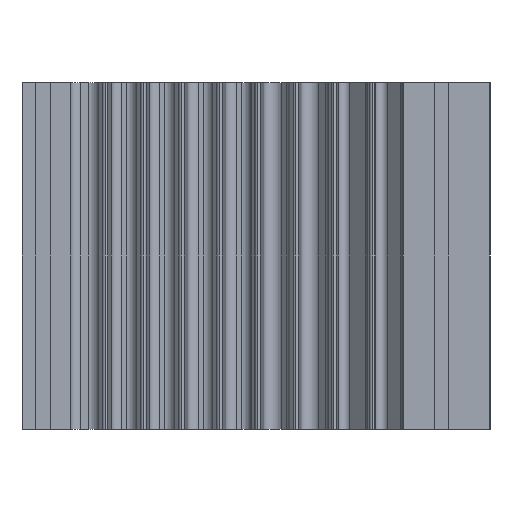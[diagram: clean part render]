
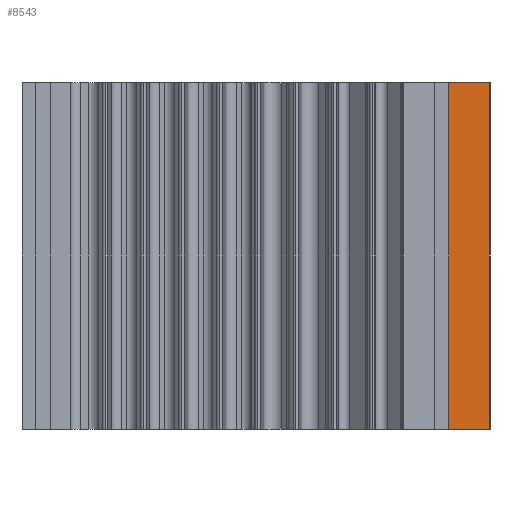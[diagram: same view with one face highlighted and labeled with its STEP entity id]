
A CAD part, left-side view. The second image highlights one B-rep face of the part: STEP entity #8543.
In plain terms, the highlighted planar face has unit normal (-1, 0, 0).
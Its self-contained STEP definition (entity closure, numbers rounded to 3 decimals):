
#1002 = PLANE ( 'NONE',  #7628 ) ;
#1003 = CARTESIAN_POINT ( 'NONE',  ( -62.5, -135., 100. ) ) ;
#1004 = DIRECTION ( 'NONE',  ( 1., 0., 0. ) ) ;
#1005 = DIRECTION ( 'NONE',  ( 0., 0., -1. ) ) ;
#2646 = CARTESIAN_POINT ( 'NONE',  ( -62.5, -123.15, 100. ) ) ;
#2647 = DIRECTION ( 'NONE',  ( 0., 0., -1. ) ) ;
#2653 = CARTESIAN_POINT ( 'NONE',  ( -62.5, -135., 100. ) ) ;
#2654 = DIRECTION ( 'NONE',  ( 0., 0., -1. ) ) ;
#4562 = CARTESIAN_POINT ( 'NONE',  ( -62.5, -123.15, 100. ) ) ;
#4652 = CARTESIAN_POINT ( 'NONE',  ( -62.5, -135., 100. ) ) ;
#4754 = EDGE_CURVE ( 'NONE', #6352, #6360, #5773, .T. ) ;
#5773 = LINE ( 'NONE', #10401, #11525 ) ;
#6045 = EDGE_LOOP ( 'NONE', ( #13662, #13660, #13665, #13656 ) ) ;
#6352 = VERTEX_POINT ( 'NONE', #10642 ) ;
#6360 = VERTEX_POINT ( 'NONE', #10650 ) ;
#7348 = VECTOR ( 'NONE', #10098, 1000. ) ;
#7628 = AXIS2_PLACEMENT_3D ( 'NONE', #1003, #1004, #1005 ) ;
#7743 = LINE ( 'NONE', #10097, #7348 ) ;
#7972 = FACE_OUTER_BOUND ( 'NONE', #6045, .T. ) ;
#8297 = EDGE_CURVE ( 'NONE', #13190, #13333, #7743, .T. ) ;
#8543 = ADVANCED_FACE ( 'NONE', ( #7972 ), #1002, .F. ) ;
#8894 = LINE ( 'NONE', #2646, #9591 ) ;
#8896 = LINE ( 'NONE', #2653, #9596 ) ;
#9591 = VECTOR ( 'NONE', #2647, 1000. ) ;
#9596 = VECTOR ( 'NONE', #2654, 1000. ) ;
#9844 = EDGE_CURVE ( 'NONE', #13190, #6352, #8894, .T. ) ;
#9847 = EDGE_CURVE ( 'NONE', #13333, #6360, #8896, .T. ) ;
#10097 = CARTESIAN_POINT ( 'NONE',  ( -62.5, -135., 100. ) ) ;
#10098 = DIRECTION ( 'NONE',  ( 0., -1., 0. ) ) ;
#10401 = CARTESIAN_POINT ( 'NONE',  ( -62.5, -135., 0. ) ) ;
#10402 = DIRECTION ( 'NONE',  ( 0., -1., 0. ) ) ;
#10642 = CARTESIAN_POINT ( 'NONE',  ( -62.5, -123.15, 0. ) ) ;
#10650 = CARTESIAN_POINT ( 'NONE',  ( -62.5, -135., 0. ) ) ;
#11525 = VECTOR ( 'NONE', #10402, 1000. ) ;
#13190 = VERTEX_POINT ( 'NONE', #4562 ) ;
#13333 = VERTEX_POINT ( 'NONE', #4652 ) ;
#13656 = ORIENTED_EDGE ( 'NONE', *, *, #9844, .T. ) ;
#13660 = ORIENTED_EDGE ( 'NONE', *, *, #9847, .F. ) ;
#13662 = ORIENTED_EDGE ( 'NONE', *, *, #4754, .T. ) ;
#13665 = ORIENTED_EDGE ( 'NONE', *, *, #8297, .F. ) ;
